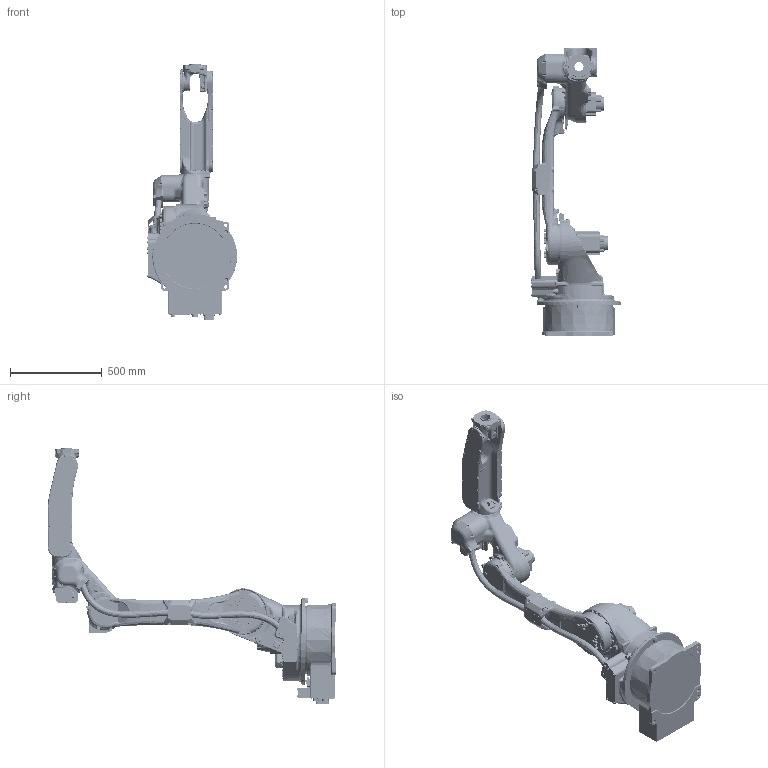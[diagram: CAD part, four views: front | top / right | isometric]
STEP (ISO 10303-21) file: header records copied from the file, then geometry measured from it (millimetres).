
FILE_DESCRIPTION((''),'2;1');
FILE_NAME('ASSY_VIEW_06VXH25-A00_ASM','2019-04-16T',('ttakaoka'),('YASKAWA ELECTRIC CORPORATION'),'PRO/ENGINEER BY PARAMETRIC TECHNOLOGY CORPORATION, 2015030','PRO/ENGINEER BY PARAMETRIC TECHNOLOGY CORPORATION, 2015030','');
FILE_SCHEMA(('CONFIG_CONTROL_DESIGN'));
Products named in the file (8): BASE_VIEW_06VXH25-A00; S_VIEW_06VXH25-A00; L_VIEW_06VXH25-A00; U_VIEW_06VXH25-A00; R_VIEW_06VXH25-A00; B_VIEW_06VXH25-A00; T_VIEW_06VXH25-A00; ASSY_VIEW_06VXH25-A00_ASM
Assembly tree (7 placements, depth 2):
  ASSY_VIEW_06VXH25-A00_ASM
    BASE_VIEW_06VXH25-A00
    S_VIEW_06VXH25-A00
    L_VIEW_06VXH25-A00
    U_VIEW_06VXH25-A00
    R_VIEW_06VXH25-A00
    B_VIEW_06VXH25-A00
    T_VIEW_06VXH25-A00
Bounding box: 490.5 x 1568 x 1392.85 mm (x, y, z)
Volume: 83565691.6 mm3; surface area: 3720373.1 mm2
Topology: 7 solids, 16 shells, 8568 faces, 21000 edges, 12915 vertices
Faces by surface type: cylinder 2958, plane 2768, bspline 1377, cone 714, torus 663, sphere 88
Entity records: 377306 total; most frequent: CARTESIAN_POINT 182108, ORIENTED_EDGE 41846, DIRECTION 40003, EDGE_CURVE 20923, AXIS2_PLACEMENT_3D 15886, VERTEX_POINT 12912, EDGE_LOOP 9261, CIRCLE 8680
